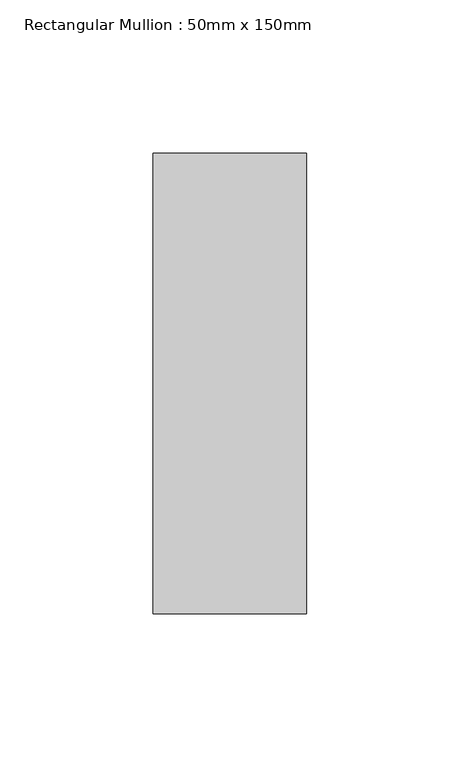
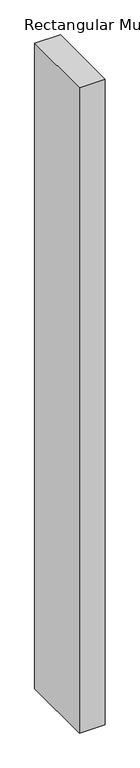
"""IFC4 building model written with IfcOpenShell, lengths in millimetres: member geometry, Rectangular Mullion : 50mm x 150mm."""

from ifc_helpers import new_model, si_unit, frame, origin, place, context, project, spatial, polyline, outline, extrude, source, transform, mapped, element, save


def rectangular_mullion_50mm_x_150mm_1a3ebe9d(model_context):
    return source(origin(), model_context, "Body", "SweptSolid", [
        extrude(outline(polyline([(25.0, 75.0), (25.0, -75.0), (-25.0, -75.0), (-25.0, 75.0), (25.0, 75.0)])), frame((0.0, 0.0, -1324.9999997), z_axis=(0.0, 0.0, 1.0), x_axis=(1.0, 0.0, 0.0)), (0.0, 0.0, 1.0), 1324.9999997),
    ])


if __name__ == "__main__":
    model = new_model("IFC4")
    model_context = context("Model", 3, world=origin())
    ifc_project = project(units=[si_unit("LENGTHUNIT", "METRE", prefix="MILLI")], contexts=[model_context])
    site = spatial("IfcSite", under=ifc_project)
    building = spatial("IfcBuilding", under=site)
    placement = place(None, origin())
    rectangular_mullion_50mm_x_150mm_shape = rectangular_mullion_50mm_x_150mm_1a3ebe9d(model_context)
    element("IfcMember", 1, ObjectType="Rectangular Mullion : 50mm x 150mm", at=placement, inside=building, context=model_context, shape_type="MappedRepresentation", body=[
        mapped(rectangular_mullion_50mm_x_150mm_shape, transform((0.0, 0.0, 0.0), x_axis=(1.0, 0.0, 0.0), y_axis=(0.0, 1.0, 0.0), z_axis=(0.0, 0.0, 1.0))),
    ])
    save(model, "model.ifc")
